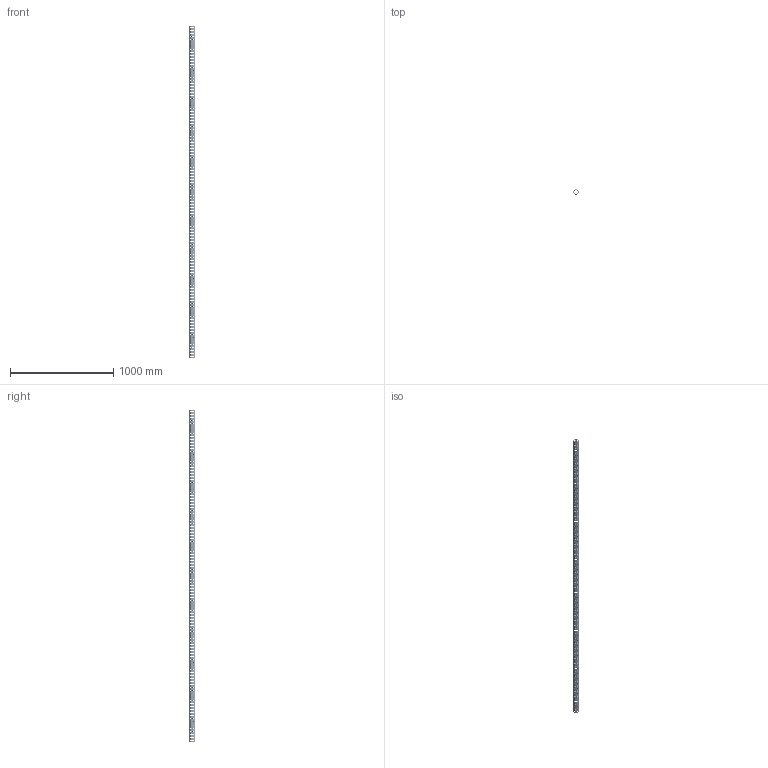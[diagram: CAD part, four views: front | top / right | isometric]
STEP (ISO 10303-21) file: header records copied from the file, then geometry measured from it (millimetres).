
FILE_DESCRIPTION(('CATIA V5 STEP Exchange'),'2;1');
FILE_NAME('U:\Room\唐宝山\EGT002\46-01-010336-01-EGT002-3208.stp','2021-08-24T07:22:45+00:00',('none'),('none'),'CATIA Version 5 Release 21 GA (IN-10)','CATIA V5 STEP AP203','none');
FILE_SCHEMA(('CONFIG_CONTROL_DESIGN'));
Products named in the file (1): 46-01-010336-01-EGT002-3208
Bounding box: 50 x 50 x 3208 mm (x, y, z)
Volume: 2285831.9 mm3; surface area: 1100941.7 mm2
Topology: 1 solids, 1 shells, 4364 faces, 12016 edges, 7440 vertices
Faces by surface type: cone 2568, cylinder 1770, plane 26
Entity records: 185741 total; most frequent: CARTESIAN_POINT 80796, ORIENTED_EDGE 24032, DIRECTION 16650, EDGE_CURVE 12016, AXIS2_PLACEMENT_3D 7663, VERTEX_POINT 7440, EDGE_LOOP 5864, VECTOR 4624
